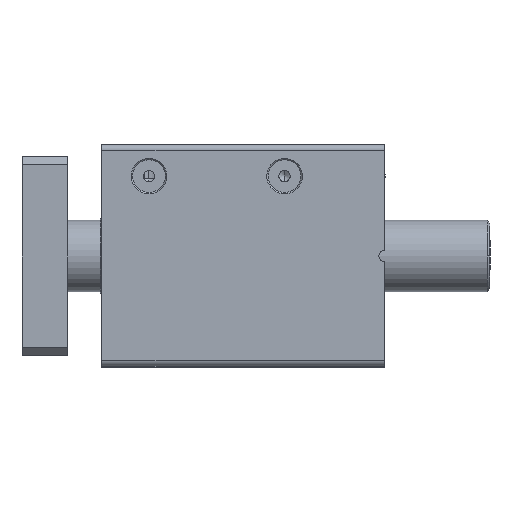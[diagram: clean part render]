
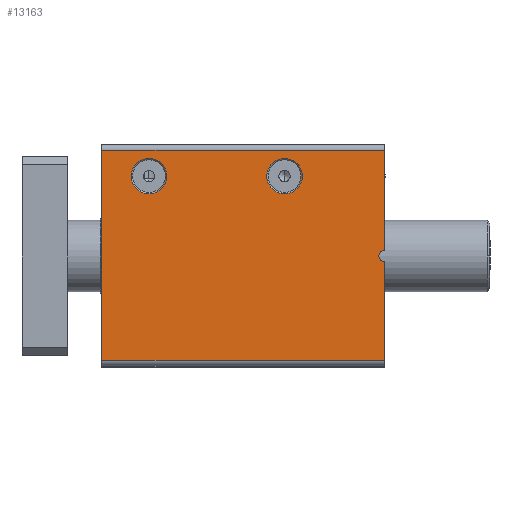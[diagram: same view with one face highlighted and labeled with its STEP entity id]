
A CAD part, front view. The second image highlights one B-rep face of the part: STEP entity #13163.
In plain terms, the highlighted planar face has unit normal (0, -1, 0).
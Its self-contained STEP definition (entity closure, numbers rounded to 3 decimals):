
#1160 = CARTESIAN_POINT ( 'NONE',  ( -7.113, -107.014, 280.017 ) ) ;
#1204 = ORIENTED_EDGE ( 'NONE', *, *, #27308, .T. ) ;
#1349 = CARTESIAN_POINT ( 'NONE',  ( -23.613, -107.014, 282.795 ) ) ;
#1635 = LINE ( 'NONE', #6905, #8828 ) ;
#1737 = AXIS2_PLACEMENT_3D ( 'NONE', #10857, #17351, #4676 ) ;
#2581 = PLANE ( 'NONE',  #7948 ) ;
#2817 = ORIENTED_EDGE ( 'NONE', *, *, #22848, .T. ) ;
#3690 = AXIS2_PLACEMENT_3D ( 'NONE', #8844, #21544, #11101 ) ;
#3807 = VERTEX_POINT ( 'NONE', #18848 ) ;
#4676 = DIRECTION ( 'NONE',  ( 0., 0., -1. ) ) ;
#4889 = VERTEX_POINT ( 'NONE', #24038 ) ;
#5062 = DIRECTION ( 'NONE',  ( 0., 0., -1. ) ) ;
#5288 = EDGE_CURVE ( 'NONE', #14278, #25758, #15188, .T. ) ;
#5327 = DIRECTION ( 'NONE',  ( 0., 1., 0. ) ) ;
#5604 = EDGE_CURVE ( 'NONE', #7631, #3807, #21614, .T. ) ;
#5711 = EDGE_CURVE ( 'NONE', #7357, #14080, #23603, .T. ) ;
#5894 = CARTESIAN_POINT ( 'NONE',  ( 75.387, -107.014, 206.795 ) ) ;
#6088 = AXIS2_PLACEMENT_3D ( 'NONE', #6991, #11064, #21507 ) ;
#6500 = ORIENTED_EDGE ( 'NONE', *, *, #20682, .T. ) ;
#6905 = CARTESIAN_POINT ( 'NONE',  ( -23.613, -107.014, 209.295 ) ) ;
#6971 = CARTESIAN_POINT ( 'NONE',  ( -23.613, -107.014, 206.795 ) ) ;
#6991 = CARTESIAN_POINT ( 'NONE',  ( -7.113, -107.014, 273.795 ) ) ;
#7000 = EDGE_LOOP ( 'NONE', ( #24682, #26844 ) ) ;
#7270 = CIRCLE ( 'NONE', #6088, 6.222 ) ;
#7357 = VERTEX_POINT ( 'NONE', #1160 ) ;
#7631 = VERTEX_POINT ( 'NONE', #21162 ) ;
#7948 = AXIS2_PLACEMENT_3D ( 'NONE', #6971, #11230, #21666 ) ;
#8434 = DIRECTION ( 'NONE',  ( 0., 0., -1. ) ) ;
#8622 = ORIENTED_EDGE ( 'NONE', *, *, #11175, .T. ) ;
#8661 = VERTEX_POINT ( 'NONE', #21789 ) ;
#8828 = VECTOR ( 'NONE', #13393, 1000. ) ;
#8844 = CARTESIAN_POINT ( 'NONE',  ( -7.113, -107.014, 273.795 ) ) ;
#9539 = VECTOR ( 'NONE', #8434, 1000. ) ;
#10078 = VERTEX_POINT ( 'NONE', #13046 ) ;
#10166 = DIRECTION ( 'NONE',  ( 0., 0., -1. ) ) ;
#10482 = CIRCLE ( 'NONE', #18641, 2. ) ;
#10495 = VERTEX_POINT ( 'NONE', #18349 ) ;
#10503 = CARTESIAN_POINT ( 'NONE',  ( -23.613, -107.014, 206.795 ) ) ;
#10726 = CARTESIAN_POINT ( 'NONE',  ( -7.113, -107.014, 267.572 ) ) ;
#10857 = CARTESIAN_POINT ( 'NONE',  ( 40.387, -107.014, 273.795 ) ) ;
#11008 = CARTESIAN_POINT ( 'NONE',  ( 40.387, -107.014, 267.572 ) ) ;
#11064 = DIRECTION ( 'NONE',  ( 0., 1., 0. ) ) ;
#11101 = DIRECTION ( 'NONE',  ( 0., 0., -1. ) ) ;
#11175 = EDGE_CURVE ( 'NONE', #10078, #3807, #22543, .T. ) ;
#11230 = DIRECTION ( 'NONE',  ( 0., -1., 0. ) ) ;
#11759 = LINE ( 'NONE', #1349, #22459 ) ;
#12289 = CARTESIAN_POINT ( 'NONE',  ( 75.387, -107.014, 245.795 ) ) ;
#12404 = EDGE_CURVE ( 'NONE', #25758, #14278, #15548, .T. ) ;
#12647 = DIRECTION ( 'NONE',  ( 0., 1., 0. ) ) ;
#12801 = ORIENTED_EDGE ( 'NONE', *, *, #5711, .T. ) ;
#12853 = EDGE_LOOP ( 'NONE', ( #2817, #12801 ) ) ;
#13046 = CARTESIAN_POINT ( 'NONE',  ( 73.387, -107.014, 245.795 ) ) ;
#13052 = AXIS2_PLACEMENT_3D ( 'NONE', #12289, #12647, #18638 ) ;
#13119 = EDGE_CURVE ( 'NONE', #10495, #8661, #15852, .T. ) ;
#13163 = ADVANCED_FACE ( 'NONE', ( #22547, #16529, #21875 ), #2581, .T. ) ;
#13201 = ORIENTED_EDGE ( 'NONE', *, *, #13335, .F. ) ;
#13335 = EDGE_CURVE ( 'NONE', #8661, #4889, #1635, .T. ) ;
#13393 = DIRECTION ( 'NONE',  ( -1., 0., 0. ) ) ;
#13403 = DIRECTION ( 'NONE',  ( 0., 1., 0. ) ) ;
#13740 = VERTEX_POINT ( 'NONE', #21736 ) ;
#13952 = CARTESIAN_POINT ( 'NONE',  ( 75.387, -107.014, 245.795 ) ) ;
#14080 = VERTEX_POINT ( 'NONE', #10726 ) ;
#14278 = VERTEX_POINT ( 'NONE', #11008 ) ;
#14638 = ORIENTED_EDGE ( 'NONE', *, *, #14951, .F. ) ;
#14951 = EDGE_CURVE ( 'NONE', #13740, #7631, #11759, .T. ) ;
#15188 = CIRCLE ( 'NONE', #1737, 6.222 ) ;
#15548 = CIRCLE ( 'NONE', #22058, 6.222 ) ;
#15676 = ORIENTED_EDGE ( 'NONE', *, *, #5604, .F. ) ;
#15852 = LINE ( 'NONE', #27564, #25254 ) ;
#15922 = VECTOR ( 'NONE', #10166, 1000. ) ;
#16091 = CARTESIAN_POINT ( 'NONE',  ( 40.387, -107.014, 280.017 ) ) ;
#16339 = EDGE_LOOP ( 'NONE', ( #13201, #16716, #6500, #8622, #15676, #14638, #1204 ) ) ;
#16529 = FACE_BOUND ( 'NONE', #12853, .T. ) ;
#16589 = DIRECTION ( 'NONE',  ( 1., 0., 0. ) ) ;
#16716 = ORIENTED_EDGE ( 'NONE', *, *, #13119, .F. ) ;
#17351 = DIRECTION ( 'NONE',  ( 0., 1., 0. ) ) ;
#18349 = CARTESIAN_POINT ( 'NONE',  ( 75.387, -107.014, 243.795 ) ) ;
#18638 = DIRECTION ( 'NONE',  ( -1., 0., 0. ) ) ;
#18641 = AXIS2_PLACEMENT_3D ( 'NONE', #13952, #5327, #22085 ) ;
#18848 = CARTESIAN_POINT ( 'NONE',  ( 75.387, -107.014, 247.795 ) ) ;
#19619 = DIRECTION ( 'NONE',  ( 0., 0., -1. ) ) ;
#20682 = EDGE_CURVE ( 'NONE', #10495, #10078, #10482, .T. ) ;
#21162 = CARTESIAN_POINT ( 'NONE',  ( 75.387, -107.014, 282.795 ) ) ;
#21507 = DIRECTION ( 'NONE',  ( 0., 0., -1. ) ) ;
#21544 = DIRECTION ( 'NONE',  ( 0., 1., 0. ) ) ;
#21614 = LINE ( 'NONE', #5894, #15922 ) ;
#21666 = DIRECTION ( 'NONE',  ( 0., 0., -1. ) ) ;
#21736 = CARTESIAN_POINT ( 'NONE',  ( -23.613, -107.014, 282.795 ) ) ;
#21789 = CARTESIAN_POINT ( 'NONE',  ( 75.387, -107.014, 209.295 ) ) ;
#21875 = FACE_OUTER_BOUND ( 'NONE', #16339, .T. ) ;
#21903 = CARTESIAN_POINT ( 'NONE',  ( 40.387, -107.014, 273.795 ) ) ;
#21912 = LINE ( 'NONE', #10503, #9539 ) ;
#22058 = AXIS2_PLACEMENT_3D ( 'NONE', #21903, #13403, #5062 ) ;
#22085 = DIRECTION ( 'NONE',  ( -1., 0., 0. ) ) ;
#22459 = VECTOR ( 'NONE', #16589, 1000. ) ;
#22543 = CIRCLE ( 'NONE', #13052, 2. ) ;
#22547 = FACE_BOUND ( 'NONE', #7000, .T. ) ;
#22848 = EDGE_CURVE ( 'NONE', #14080, #7357, #7270, .T. ) ;
#23603 = CIRCLE ( 'NONE', #3690, 6.222 ) ;
#24038 = CARTESIAN_POINT ( 'NONE',  ( -23.613, -107.014, 209.295 ) ) ;
#24682 = ORIENTED_EDGE ( 'NONE', *, *, #5288, .T. ) ;
#25254 = VECTOR ( 'NONE', #19619, 1000. ) ;
#25758 = VERTEX_POINT ( 'NONE', #16091 ) ;
#26844 = ORIENTED_EDGE ( 'NONE', *, *, #12404, .T. ) ;
#27308 = EDGE_CURVE ( 'NONE', #13740, #4889, #21912, .T. ) ;
#27564 = CARTESIAN_POINT ( 'NONE',  ( 75.387, -107.014, 206.795 ) ) ;
